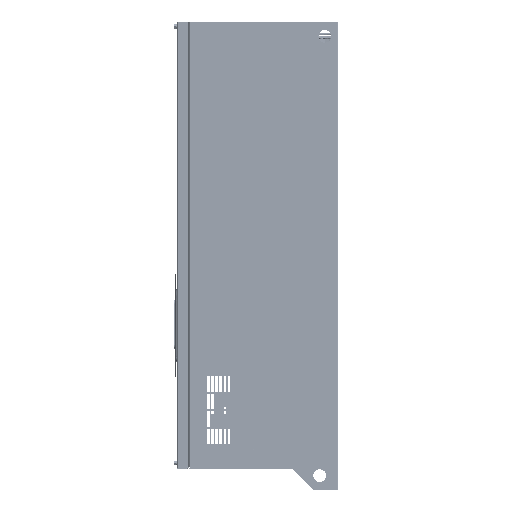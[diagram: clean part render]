
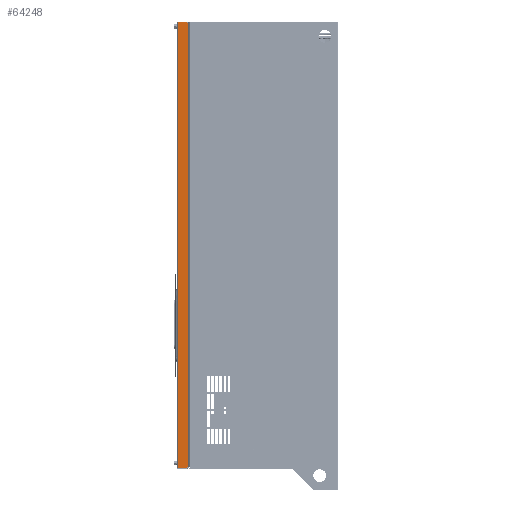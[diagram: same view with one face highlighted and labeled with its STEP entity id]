
A CAD part, left-side view. The second image highlights one B-rep face of the part: STEP entity #64248.
In plain terms, the highlighted planar face has unit normal (-1, 0, 0).
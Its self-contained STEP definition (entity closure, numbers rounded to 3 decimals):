
#60972=DIRECTION('',(0.,0.,1.));
#60973=VECTOR('',#60972,872.5);
#60974=CARTESIAN_POINT('',(-200.,-1.8,-872.5));
#60975=LINE('',#60974,#60973);
#61009=CARTESIAN_POINT('',(-200.,-17.,-869.5));
#61010=DIRECTION('',(-1.,0.,0.));
#61011=DIRECTION('',(0.,0.,-1.));
#61012=AXIS2_PLACEMENT_3D('',#61009,#61010,#61011);
#61017=DIRECTION('',(0.,1.,0.));
#61018=VECTOR('',#61017,15.2);
#61019=CARTESIAN_POINT('',(-200.,-17.,-872.5));
#61020=LINE('',#61019,#61018);
#61024=DIRECTION('',(0.,-1.,0.));
#61025=VECTOR('',#61024,15.2);
#61026=CARTESIAN_POINT('',(-200.,-1.8,0.));
#61027=LINE('',#61026,#61025);
#61031=CARTESIAN_POINT('',(-200.,-17.,-3.));
#61032=DIRECTION('',(-1.,0.,0.));
#61033=DIRECTION('',(0.,-1.,0.));
#61034=AXIS2_PLACEMENT_3D('',#61031,#61032,#61033);
#61039=DIRECTION('',(0.,0.,-1.));
#61040=VECTOR('',#61039,866.5);
#61041=CARTESIAN_POINT('',(-200.,-20.,-3.));
#61042=LINE('',#61041,#61040);
#63579=CARTESIAN_POINT('',(-200.,-1.8,-872.5));
#63580=CARTESIAN_POINT('',(-200.,-1.8,0.));
#63581=VERTEX_POINT('',#63579);
#63582=VERTEX_POINT('',#63580);
#63647=CARTESIAN_POINT('',(-200.,-17.,-872.5));
#63648=VERTEX_POINT('',#63647);
#63649=CARTESIAN_POINT('',(-200.,-20.,-869.5));
#63650=VERTEX_POINT('',#63649);
#63655=CARTESIAN_POINT('',(-200.,-20.,-3.));
#63656=VERTEX_POINT('',#63655);
#63657=CARTESIAN_POINT('',(-200.,-17.,0.));
#63658=VERTEX_POINT('',#63657);
#64230=CARTESIAN_POINT('',(-200.,-1.5,0.));
#64231=DIRECTION('',(1.,0.,0.));
#64232=DIRECTION('',(0.,0.,1.));
#64233=AXIS2_PLACEMENT_3D('',#64230,#64231,#64232);
#64234=PLANE('',#64233);
#64236=ORIENTED_EDGE('',*,*,#64235,.F.);
#64238=ORIENTED_EDGE('',*,*,#64237,.T.);
#64239=ORIENTED_EDGE('',*,*,#64218,.T.);
#64241=ORIENTED_EDGE('',*,*,#64240,.T.);
#64243=ORIENTED_EDGE('',*,*,#64242,.F.);
#64245=ORIENTED_EDGE('',*,*,#64244,.T.);
#64246=EDGE_LOOP('',(#64236,#64238,#64239,#64241,#64243,#64245));
#64247=FACE_OUTER_BOUND('',#64246,.F.);
#61013=CIRCLE('',#61012,3.);
#61035=CIRCLE('',#61034,3.);
#64218=EDGE_CURVE('',#63581,#63582,#60975,.T.);
#64235=EDGE_CURVE('',#63648,#63650,#61013,.T.);
#64237=EDGE_CURVE('',#63648,#63581,#61020,.T.);
#64240=EDGE_CURVE('',#63582,#63658,#61027,.T.);
#64242=EDGE_CURVE('',#63656,#63658,#61035,.T.);
#64244=EDGE_CURVE('',#63656,#63650,#61042,.T.);
#64248=ADVANCED_FACE('',(#64247),#64234,.F.);
